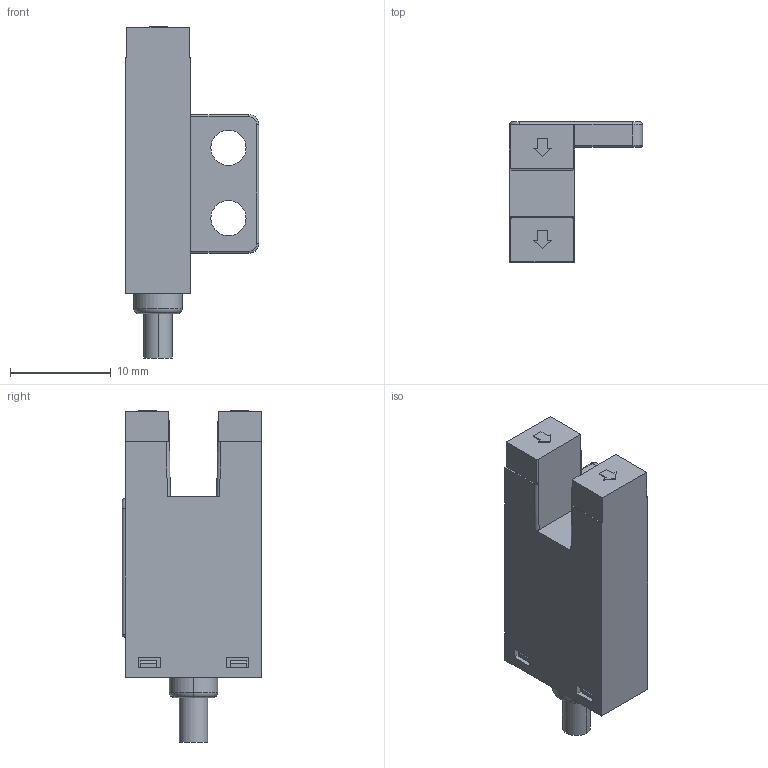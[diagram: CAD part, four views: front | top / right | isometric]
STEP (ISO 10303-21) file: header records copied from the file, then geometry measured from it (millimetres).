
FILE_DESCRIPTION((''),'2;1');
FILE_NAME('677_ASM_ASM','2018-07-16T15:00:08',('Administrator'),(''),'CREO PARAMETRIC BY PTC INC, 2016390','CREO PARAMETRIC BY PTC INC, 2016390','');
FILE_SCHEMA(('CONFIG_CONTROL_DESIGN'));
Length unit declared in the file: millimetre
Products named in the file (4): ADMI814D3LC7_32_27; ADMI814D3LC7_66_28; 677_ASM_18_ASM; 677_ASM_ASM
Assembly tree (3 placements, depth 3):
  677_ASM_ASM
    677_ASM_18_ASM
      ADMI814D3LC7_32_27
      ADMI814D3LC7_66_28
Bounding box: 13.25 x 13.9 x 33 mm (x, y, z)
Volume: 990.8 mm3; surface area: 2958.4 mm2
Topology: 3 solids, 3 shells, 200 faces, 518 edges, 335 vertices
Faces by surface type: plane 157, cylinder 29, torus 9, cone 4, sphere 1
Entity records: 6168 total; most frequent: CARTESIAN_POINT 1110, ORIENTED_EDGE 1034, DIRECTION 997, EDGE_CURVE 517, VECTOR 431, LINE 431, VERTEX_POINT 335, AXIS2_PLACEMENT_3D 283
